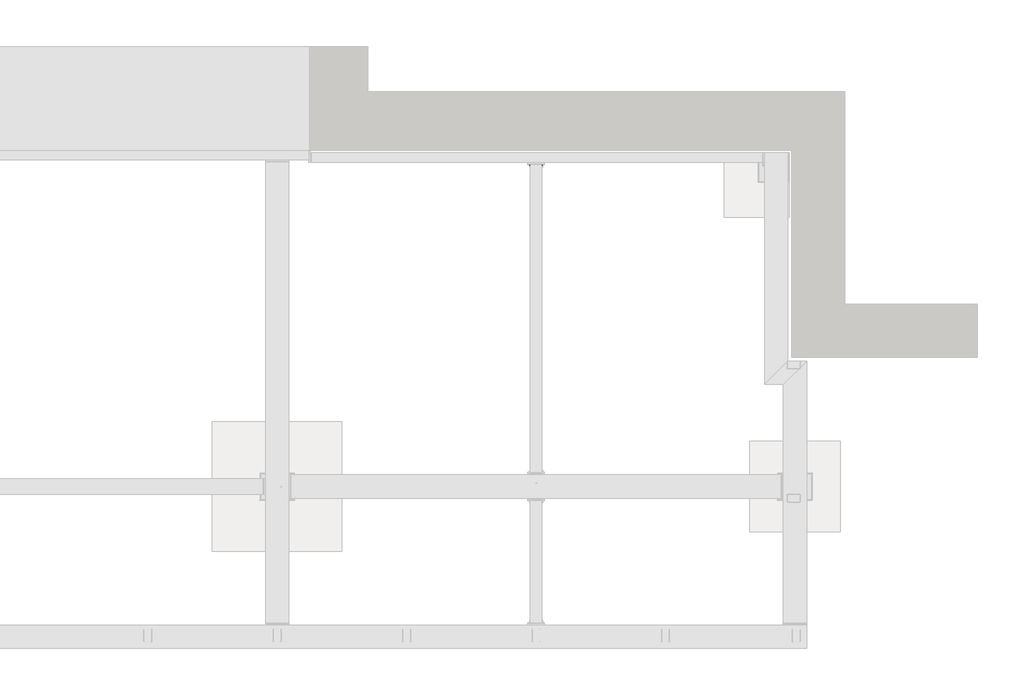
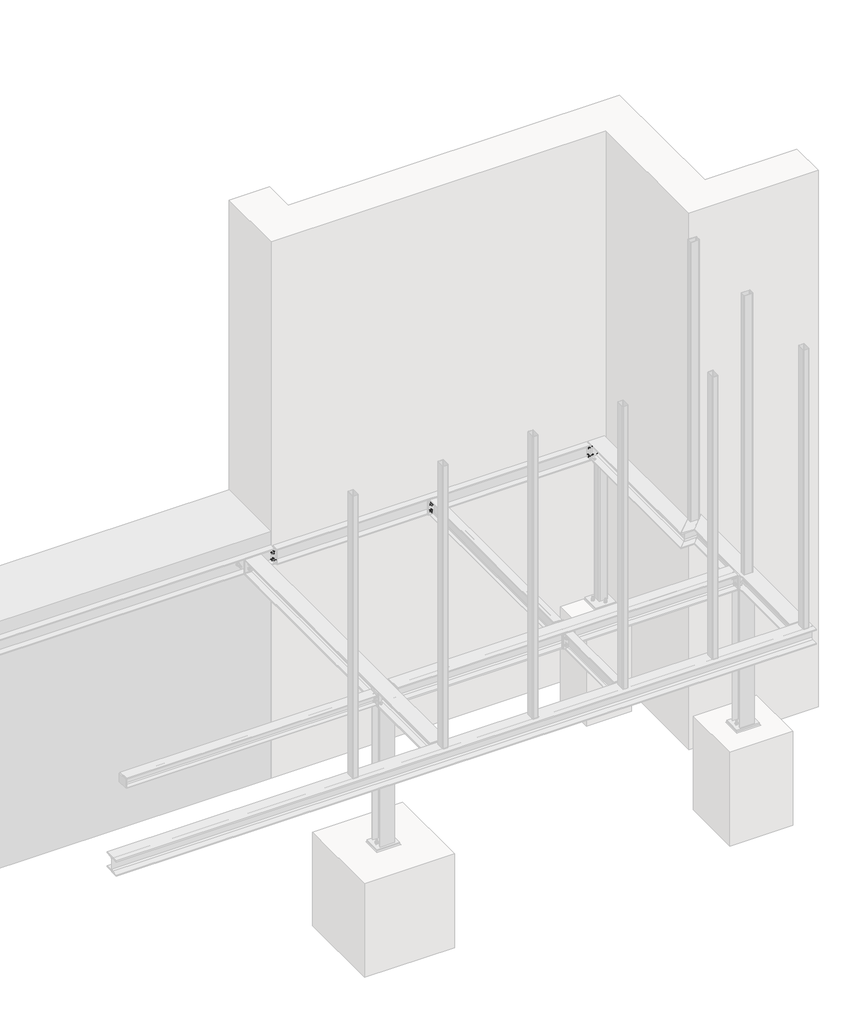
# One storey, part 29 of 31: 4 assemblies.
"""IFC4 building model written with IfcOpenShell, lengths in millimetres."""

import ifcopenshell
import ifcopenshell.guid

model = None  # the IFC model being written
_history = None  # IfcOwnerHistory: only IFC2X3 demands one
_inside = {}  # id of a spatial element -> (the spatial element, [elements in it])
_under = {}  # id of a project, library or spatial element -> (it, [spatial elements below it])
_declared = {}  # id of a project -> (the project, [libraries it declares])
_typed = {}  # id of a type object -> (the type object, [elements of that type])
_made_of = {}  # id of a material, layer set ... -> (it, [elements and type objects made of it])


def new_model(schema):
    """Start an empty IFC model of exactly this schema.

    Asked for "IFC4X3", IfcOpenShell would pick the latest addendum, in which some entities
    have other attributes; the version numbers below select the first issue.
    IFC2X3 requires an IfcOwnerHistory on every rooted entity: one is made here for all.
    """
    global model, _history
    if schema == "IFC4X3":
        model = ifcopenshell.file(schema_version=(4, 3, 0, 0))
    else:
        model = ifcopenshell.file(schema=schema)
    _inside.clear()
    _under.clear()
    _declared.clear()
    _typed.clear()
    _made_of.clear()
    _history = None
    if model.schema == "IFC2X3":
        org = make("IfcOrganization", Name="unknown")
        user = make(
            "IfcPersonAndOrganization",
            ThePerson=make("IfcPerson", FamilyName="unknown"),
            TheOrganization=org,
        )
        app = make(
            "IfcApplication",
            ApplicationDeveloper=org,
            Version="unknown",
            ApplicationFullName="unknown",
            ApplicationIdentifier="unknown",
        )
        _history = make(
            "IfcOwnerHistory",
            OwningUser=user,
            OwningApplication=app,
            ChangeAction="ADDED",
            CreationDate=0,
        )
    return model


def make(cls, **values):
    """One entity of the class cls with the attributes given. An attribute that is None is left unset."""
    return model.create_entity(
        cls, **{name: value for name, value in values.items() if value is not None}
    )


def rooted(cls, **values):
    """An entity with a GlobalId (a new one), such as an element, a storey or a relation."""
    return make(cls, GlobalId=ifcopenshell.guid.new(), OwnerHistory=_history, **values)


def si_unit(unit_type, name, prefix=None):
    """IfcSIUnit, for example si_unit("LENGTHUNIT", "METRE", prefix="MILLI")."""
    return make("IfcSIUnit", UnitType=unit_type, Prefix=prefix, Name=name)


def assignment(units):
    """IfcUnitAssignment: the units of a project."""
    return None if units is None else make("IfcUnitAssignment", Units=units)


def point(xyz):
    """IfcCartesianPoint."""
    return None if xyz is None else make("IfcCartesianPoint", Coordinates=xyz)


def direction(xyz):
    """IfcDirection."""
    return None if xyz is None else make("IfcDirection", DirectionRatios=xyz)


def frame(location, z_axis=None, x_axis=None):
    """IfcAxis2Placement3D, a coordinate frame: its origin and axes. An axis left out is left unset."""
    return make(
        "IfcAxis2Placement3D",
        Location=point(location),
        Axis=direction(z_axis),
        RefDirection=direction(x_axis),
    )


def frame_2d(location, x_axis=None):
    """IfcAxis2Placement2D, a coordinate frame in the plane: its origin and x axis."""
    return make(
        "IfcAxis2Placement2D", Location=point(location), RefDirection=direction(x_axis)
    )


def origin():
    """The frame at (0, 0, 0) with its axes left unset."""
    return frame((0.0, 0.0, 0.0))


def place(relative_to, where):
    """IfcLocalPlacement: puts the frame where relative to a parent placement (None: the world)."""
    return make(
        "IfcLocalPlacement", PlacementRelTo=relative_to, RelativePlacement=where
    )


def context(
    kind, dimensions, precision=None, world=None, true_north=None, identifier=None
):
    """IfcGeometricRepresentationContext, for example the 3D "Model" context."""
    return make(
        "IfcGeometricRepresentationContext",
        ContextIdentifier=identifier,
        ContextType=kind,
        CoordinateSpaceDimension=dimensions,
        Precision=precision,
        WorldCoordinateSystem=world,
        TrueNorth=true_north,
    )


def project(units=None, contexts=None):
    """IfcProject with its units and contexts."""
    return rooted(
        "IfcProject",
        Name="project",
        RepresentationContexts=contexts,
        UnitsInContext=assignment(units),
    )


def spatial(cls, under=None, at=None, **own):
    """A site, building, storey or space (cls), placed at a placement, below another one or the project."""
    s = rooted(cls, ObjectPlacement=at, **own)
    if under is not None:
        _under.setdefault(under.id(), (under, []))[1].append(s)
    return s


def polyline(points):
    """IfcPolyline through the points."""
    return make("IfcPolyline", Points=[point(p) for p in points])


def circle_curve(where, radius):
    """IfcCircle in the frame where."""
    return make("IfcCircle", Position=where, Radius=radius)


def ellipse_curve(where, semi_axis1, semi_axis2):
    """IfcEllipse in the frame where."""
    return make(
        "IfcEllipse", Position=where, SemiAxis1=semi_axis1, SemiAxis2=semi_axis2
    )


def trimmed(basis, trim1, trim2, sense, master):
    """IfcTrimmedCurve: the piece of a basis curve between two trims."""
    return make(
        "IfcTrimmedCurve",
        BasisCurve=basis,
        Trim1=trim1,
        Trim2=trim2,
        SenseAgreement=sense,
        MasterRepresentation=master,
    )


def segment(curve, same_sense, transition):
    """IfcCompositeCurveSegment."""
    return make(
        "IfcCompositeCurveSegment",
        Transition=transition,
        SameSense=same_sense,
        ParentCurve=curve,
    )


def composite_curve(segments, self_intersect=None):
    """IfcCompositeCurve: segments joined end to end."""
    return make("IfcCompositeCurve", Segments=segments, SelfIntersect=self_intersect)


def outline(outer, holes=None, kind="AREA"):
    """IfcArbitraryClosedProfileDef: a profile drawn as a closed curve; with holes, ...WithVoids."""
    if holes is None:
        return make("IfcArbitraryClosedProfileDef", ProfileType=kind, OuterCurve=outer)
    return make(
        "IfcArbitraryProfileDefWithVoids",
        ProfileType=kind,
        OuterCurve=outer,
        InnerCurves=holes,
    )


def extrude(swept, where, along, depth):
    """IfcExtrudedAreaSolid: the profile swept, set in the frame where, extruded along a direction by depth."""
    return make(
        "IfcExtrudedAreaSolid",
        SweptArea=swept,
        Position=where,
        ExtrudedDirection=direction(along),
        Depth=depth,
    )


def shape(context_of_items, identifier, shape_type, items):
    """IfcShapeRepresentation: the items that make up one representation, for example the "Body"."""
    return make(
        "IfcShapeRepresentation",
        ContextOfItems=context_of_items,
        RepresentationIdentifier=identifier,
        RepresentationType=shape_type,
        Items=items,
    )


def made_of(thing, what):
    """Note that an element or type object is made of a material, layer set ...; save() writes the relation."""
    if what is not None:
        _made_of.setdefault(what.id(), (what, []))[1].append(thing)
    return thing


def element(
    cls,
    number,
    at=None,
    inside=None,
    cuts=None,
    type_object=None,
    material=None,
    context=None,
    identifier="Body",
    shape_type=None,
    held_by="IfcProductDefinitionShape",
    body=None,
    shapes=None,
    **own,
):
    """One element of the class cls, such as IfcWall. Its Tag is "e" and its number.

    at: its placement. inside: the storey or other place that contains it. cuts: it is an
    opening in that element (IfcRelVoidsElement). A single representation is given by context,
    identifier, shape_type and body (its items); several are given by shapes. held_by: the class
    of the entity that holds the representations. save() writes the other relations.
    """
    e = rooted(cls, Tag="e%d" % number, ObjectPlacement=at, **own)
    if body is not None:
        shapes = [shape(context, identifier, shape_type, body)]
    if shapes is not None:
        e.Representation = make(held_by, Representations=shapes)
    if inside is not None:
        _inside.setdefault(inside.id(), (inside, []))[1].append(e)
    if cuts is not None:
        rooted(
            "IfcRelVoidsElement", RelatingBuildingElement=cuts, RelatedOpeningElement=e
        )
    if type_object is not None:
        _typed.setdefault(type_object.id(), (type_object, []))[1].append(e)
    return made_of(e, material)


def aggregate(whole, parts):
    """IfcRelAggregates: a whole, such as a stair, and the parts it consists of."""
    return rooted("IfcRelAggregates", RelatingObject=whole, RelatedObjects=parts)


def save(model, path):
    """Write the relations noted so far, then the file.

    IfcRelAggregates (storeys below a building ...), IfcRelContainedInSpatialStructure (elements
    in a storey), IfcRelDefinesByType, IfcRelAssociatesMaterial and IfcRelDeclares: one each for
    every whole, place, type object, material and project.
    """
    for whole, parts in _under.values():
        aggregate(whole, parts)
    for where, things in _inside.values():
        rooted(
            "IfcRelContainedInSpatialStructure",
            RelatedElements=things,
            RelatingStructure=where,
        )
    for kind, things in _typed.values():
        rooted("IfcRelDefinesByType", RelatedObjects=things, RelatingType=kind)
    for what, things in _made_of.values():
        rooted("IfcRelAssociatesMaterial", RelatedObjects=things, RelatingMaterial=what)
    for by, libraries in _declared.values():
        rooted("IfcRelDeclares", RelatingContext=by, RelatedDefinitions=libraries)
    model.write(path)


def plane_surface(at):
    """IfcPlane: the flat surface through the origin of the frame at, square to its z axis."""
    return make("IfcPlane", Position=at)


def revolved_surface(curve, axis_point, axis_direction):
    """IfcSurfaceOfRevolution: the curve turned about the line through axis_point along axis_direction."""
    return make(
        "IfcSurfaceOfRevolution",
        SweptCurve=make("IfcArbitraryOpenProfileDef", ProfileType="CURVE", Curve=curve),
        AxisPosition=make("IfcAxis1Placement", Location=point(axis_point), Axis=direction(axis_direction)),
    )


def advanced_brep(points, edges, surfaces, faces):
    """IfcAdvancedBrep: a solid bounded by faces that lie on surfaces and meet in shared edges.

    An edge is (start, end): straight between two places in points (the first is 0);
    or (start, end, curve); or (start, end, curve, False) where it runs against its curve.
    A face is (place in surfaces, loops), or (place, loops, False) where it looks against
    its surface's normal. A loop lists edges by number (the first is 1), with a minus sign
    where the edge is run from its end to its start. The first loop is the outer one.
    """
    corners = [point(p) for p in points]
    vertices = [make("IfcVertexPoint", VertexGeometry=c) for c in corners]
    made = []
    for start, end, *more in edges:
        made.append(
            make(
                "IfcEdgeCurve",
                EdgeStart=vertices[start],
                EdgeEnd=vertices[end],
                EdgeGeometry=more[0] if more else make("IfcPolyline", Points=[corners[start], corners[end]]),
                SameSense=more[1] if len(more) > 1 else True,
            )
        )
    hull = []
    for where, loops, *sense in faces:
        bounds = []
        for j, loop in enumerate(loops):
            ring = [make("IfcOrientedEdge", EdgeElement=made[abs(k) - 1], Orientation=k > 0) for k in loop]
            bounds.append(
                make(
                    "IfcFaceOuterBound" if j == 0 else "IfcFaceBound",
                    Bound=make("IfcEdgeLoop", EdgeList=ring),
                    Orientation=True,
                )
            )
        hull.append(make("IfcAdvancedFace", Bounds=bounds, FaceSurface=surfaces[where], SameSense=sense[0] if sense else True))
    return make("IfcAdvancedBrep", Outer=make("IfcClosedShell", CfsFaces=hull))


model = new_model("IFC4")

# Units and contexts
model_context = context("Model", 3, world=origin())
ifc_project = project(units=[si_unit("LENGTHUNIT", "METRE", prefix="MILLI")], contexts=[model_context])

# Site, building, storey
site = spatial("IfcSite", under=ifc_project)
building = spatial("IfcBuilding", under=site)
storey = spatial("IfcBuildingStorey", under=building, Name="Základy", Elevation=-1200.0)

# Assemblies
placement = place(None, origin())
element("IfcElementAssembly", 1, at=placement, inside=storey, context=model_context, shape_type="SolidModel", body=[
    advanced_brep(
    [(15995.0, 3840.0, -340.0), (15815.0, 3840.0, -340.0), (15815.0, 3840.0, -326.0), (15885.75, 3840.0, -326.0), (15900.75, 3840.0, -311.0), (15900.75, 3840.0, -189.0), (15885.75, 3840.0, -174.0), (15815.0, 3840.0, -174.0), (15815.0, 3840.0, -160.0), (15995.0, 3840.0, -160.0), (15995.0, 3840.0, -174.0), (15924.25, 3840.0, -174.0), (15909.25, 3840.0, -189.0), (15909.25, 3840.0, -311.0), (15924.25, 3840.0, -326.0), (15995.0, 3840.0, -326.0), (15995.0, 2230.0, -340.0), (15815.0, 2050.0, -340.0), (15815.0, 2050.0, -326.0), (15885.75, 2120.75, -326.0), (15900.75, 2135.75, -311.0), (15900.75, 2135.75, -189.0), (15885.75, 2120.75, -174.0), (15815.0, 2050.0, -174.0), (15815.0, 2050.0, -160.0), (15995.0, 2230.0, -160.0), (15995.0, 2230.0, -174.0), (15924.25, 2159.25, -174.0), (15909.25, 2144.25, -189.0), (15909.25, 2144.25, -311.0), (15924.25, 2159.25, -326.0), (15995.0, 2230.0, -326.0)],
    [
        (0, 1),
        (1, 2),
        (2, 3),
        (3, 4, circle_curve(frame((15885.75, 3840.0, -311.0), z_axis=(0.0, -1.0, 0.0), x_axis=(-1.0, 0.0, 0.0)), 15.0)),
        (4, 5),
        (5, 6, circle_curve(frame((15885.75, 3840.0, -189.0), z_axis=(0.0, -1.0, 0.0), x_axis=(-1.0, 0.0, 0.0)), 15.0)),
        (6, 7),
        (7, 8),
        (8, 9),
        (9, 10),
        (10, 11),
        (11, 12, circle_curve(frame((15924.25, 3840.0, -189.0), z_axis=(0.0, -1.0, 0.0), x_axis=(-1.0, 0.0, 0.0)), 15.0)),
        (12, 13),
        (13, 14, circle_curve(frame((15924.25, 3840.0, -311.0), z_axis=(0.0, -1.0, 0.0), x_axis=(-1.0, 0.0, 0.0)), 15.0)),
        (14, 15),
        (15, 0),
        (0, 16),
        (16, 17),
        (17, 1),
        (17, 18),
        (18, 2),
        (18, 19),
        (19, 3),
        (19, 20, ellipse_curve(frame((15885.75, 2120.75, -311.0), z_axis=(0.7071067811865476, -0.7071067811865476, 0.0), x_axis=(-0.7071067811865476, -0.7071067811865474, 0.0)), 21.2132034, 15.0)),
        (20, 4),
        (20, 21),
        (21, 5),
        (21, 22, ellipse_curve(frame((15885.75, 2120.75, -189.0), z_axis=(0.7071067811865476, -0.7071067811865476, 0.0), x_axis=(-0.7071067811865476, -0.7071067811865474, 0.0)), 21.2132034, 15.0)),
        (22, 6),
        (22, 23),
        (23, 7),
        (23, 24),
        (24, 8),
        (24, 25),
        (25, 9),
        (25, 26),
        (26, 10),
        (26, 27),
        (27, 11),
        (27, 28, ellipse_curve(frame((15924.25, 2159.25, -189.0), z_axis=(0.7071067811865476, -0.7071067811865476, 0.0), x_axis=(-0.7071067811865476, -0.7071067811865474, 0.0)), 21.2132034, 15.0)),
        (28, 12),
        (28, 29),
        (29, 13),
        (29, 30, ellipse_curve(frame((15924.25, 2159.25, -311.0), z_axis=(0.7071067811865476, -0.7071067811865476, 0.0), x_axis=(-0.7071067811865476, -0.7071067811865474, 0.0)), 21.2132034, 15.0)),
        (30, 14),
        (30, 31),
        (31, 15),
        (31, 16),
    ],
    [
        plane_surface(frame((15905.0, 3840.0, -250.0), z_axis=(0.0, 1.0, 0.0), x_axis=(0.0, 0.0, 1.0))),
        plane_surface(frame((15995.0, 3840.0, -340.0), z_axis=(0.0, 0.0, -1.0), x_axis=(0.0, -1.0, 0.0))),
        plane_surface(frame((15815.0, 3840.0, -340.0), z_axis=(-1.0, 0.0, 0.0), x_axis=(0.0, -1.0, 0.0))),
        plane_surface(frame((15815.0, 3840.0, -326.0), z_axis=(0.0, 0.0, 1.0), x_axis=(0.0, -1.0, 0.0))),
        revolved_surface(polyline([(15870.75, 2105.7500000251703, -311.0), (15870.75, 3840.0, -311.0)]), (15885.75, 2040.0, -311.0), (0.0, -1.0, 0.0)),
        plane_surface(frame((15900.75, 3840.0, -311.0), z_axis=(-1.0, 0.0, 0.0), x_axis=(0.0, -1.0, 0.0))),
        revolved_surface(polyline([(15870.75, 2105.7500000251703, -189.0), (15870.75, 3840.0, -189.0)]), (15885.75, 2040.0, -189.0), (0.0, -1.0, 0.0)),
        plane_surface(frame((15885.75, 3840.0, -174.0), z_axis=(0.0, 0.0, -1.0), x_axis=(0.0, -1.0, 0.0))),
        plane_surface(frame((15815.0, 3840.0, -174.0), z_axis=(-1.0, 0.0, 0.0), x_axis=(0.0, -1.0, 0.0))),
        plane_surface(frame((15815.0, 3840.0, -160.0), z_axis=(0.0, 0.0, 1.0), x_axis=(0.0, -1.0, 0.0))),
        plane_surface(frame((15995.0, 3840.0, -160.0), z_axis=(1.0, 0.0, 0.0), x_axis=(0.0, -1.0, 0.0))),
        plane_surface(frame((15995.0, 3840.0, -174.0), z_axis=(0.0, 0.0, -1.0), x_axis=(0.0, -1.0, 0.0))),
        revolved_surface(polyline([(15909.25, 2144.25, -189.0), (15909.25, 3840.0, -189.0)]), (15924.25, 2040.0, -189.0), (0.0, -1.0, 0.0)),
        plane_surface(frame((15909.25, 3840.0, -189.0), z_axis=(1.0, 0.0, 0.0), x_axis=(0.0, -1.0, 0.0))),
        revolved_surface(polyline([(15909.25, 2144.25, -311.0), (15909.25, 3840.0, -311.0)]), (15924.25, 2040.0, -311.0), (0.0, -1.0, 0.0)),
        plane_surface(frame((15924.25, 3840.0, -326.0), z_axis=(0.0, 0.0, 1.0), x_axis=(0.0, -1.0, 0.0))),
        plane_surface(frame((15995.0, 3840.0, -326.0), z_axis=(1.0, 0.0, 0.0), x_axis=(0.0, -1.0, 0.0))),
        plane_surface(frame((16005.0, 2240.0, -160.0), z_axis=(0.7071067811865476, -0.7071067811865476, 0.0), x_axis=(0.7071067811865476, 0.7071067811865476, 0.0))),
    ],
    [
        (0, [[1, 2, 3, 4, 5, 6, 7, 8, 9, 10, 11, 12, 13, 14, 15, 16]]),
        (1, [[-1, 17, 18, 19]]),
        (2, [[-2, -19, 20, 21]]),
        (3, [[-3, -21, 22, 23]]),
        (4, [[-4, -23, 24, 25]]),
        (5, [[-5, -25, 26, 27]]),
        (6, [[-6, -27, 28, 29]]),
        (7, [[-7, -29, 30, 31]]),
        (8, [[-8, -31, 32, 33]]),
        (9, [[-9, -33, 34, 35]]),
        (10, [[-10, -35, 36, 37]]),
        (11, [[-11, -37, 38, 39]]),
        (12, [[-12, -39, 40, 41]]),
        (13, [[-13, -41, 42, 43]]),
        (14, [[-14, -43, 44, 45]]),
        (15, [[-15, -45, 46, 47]]),
        (16, [[-16, -47, 48, -17]]),
        (17, [[-18, -48, -46, -44, -42, -40, -38, -36, -34, -32, -30, -28, -26, -24, -22, -20]]),
    ],
),
    extrude(outline(polyline([(15805.0, 3765.0), (15805.0, 3835.0), (15815.0, 3835.0), (15815.0, 3765.0), (15805.0, 3765.0)])), frame((0.0, 0.0, -330.0), z_axis=(0.0, 0.0, 1.0), x_axis=(1.0, 0.0, 0.0)), (0.0, 0.0, 1.0), 160.0),
    extrude(outline(composite_curve([segment(polyline([(-174.0, 15815.0), (-326.0, 15815.0), (-326.0, 15875.5)]), True, "CONTINUOUS"), segment(trimmed(circle_curve(frame_2d((-326.0, 15900.5)), 25.0), [point((-326.0, 15875.5))], [point((-301.0, 15900.5))], True, "CARTESIAN"), True, "CONTINUOUS"), segment(polyline([(-301.0, 15900.5), (-199.0, 15900.5)]), True, "CONTINUOUS"), segment(trimmed(circle_curve(frame_2d((-174.0, 15900.5)), 25.0), [point((-199.0, 15900.5))], [point((-174.0, 15875.5))], True, "CARTESIAN"), True, "CONTINUOUS"), segment(polyline([(-174.0, 15875.5), (-174.0, 15815.0)]), True, "CONTINUOUS")], self_intersect=False)), frame((0.0, 3795.75, 0.0), z_axis=(0.0, 1.0, 0.0), x_axis=(0.0, 0.0, 1.0)), (0.0, 0.0, 1.0), 8.0),
    extrude(outline(composite_curve([segment(trimmed(circle_curve(frame_2d((3800.0, -200.0)), 9.0), [point((3800.0, -209.0))], [point((3800.0, -191.0))], False, "CARTESIAN"), True, "CONTINUOUS"), segment(trimmed(circle_curve(frame_2d((3800.0, -200.0)), 9.0), [point((3800.0, -191.0))], [point((3800.0, -209.0))], False, "CARTESIAN"), True, "CONTINUOUS")], self_intersect=False)), frame((15804.9, 0.0, 0.0), z_axis=(1.0, 0.0, 0.0), x_axis=(0.0, 1.0, 0.0)), (0.0, 0.0, 1.0), 10.1),
    extrude(outline(polyline([(3800.0, -213.8564065), (3788.0, -206.9282032), (3788.0, -193.0717968), (3800.0, -186.1435935), (3812.0, -193.0717968), (3812.0, -206.9282032), (3800.0, -213.8564065)])), frame((15784.0, 0.0, 0.0), z_axis=(1.0, 0.0, 0.0), x_axis=(0.0, 1.0, 0.0)), (0.0, 0.0, 1.0), 10.0),
    extrude(outline(composite_curve([segment(trimmed(circle_curve(frame_2d((3800.0, -200.0)), 8.0), [point((3800.0, -208.0))], [point((3800.0, -192.0))], False, "CARTESIAN"), True, "CONTINUOUS"), segment(trimmed(circle_curve(frame_2d((3800.0, -200.0)), 8.0), [point((3800.0, -192.0))], [point((3800.0, -208.0))], False, "CARTESIAN"), True, "CONTINUOUS")], self_intersect=False)), frame((15794.0, 0.0, 0.0), z_axis=(1.0, 0.0, 0.0), x_axis=(0.0, 1.0, 0.0)), (0.0, 0.0, 1.0), 50.0),
    extrude(outline(composite_curve([segment(trimmed(circle_curve(frame_2d((3800.0, -200.0)), 15.0), [point((3800.0, -215.0))], [point((3800.0, -185.0))], False, "CARTESIAN"), True, "CONTINUOUS"), segment(trimmed(circle_curve(frame_2d((3800.0, -200.0)), 15.0), [point((3800.0, -185.0))], [point((3800.0, -215.0))], False, "CARTESIAN"), True, "CONTINUOUS")], self_intersect=False)), frame((15794.0, 0.0, 0.0), z_axis=(1.0, 0.0, 0.0), x_axis=(0.0, 1.0, 0.0)), (0.0, 0.0, 1.0), 3.0),
    extrude(outline(composite_curve([segment(trimmed(circle_curve(frame_2d((3800.0, -200.0)), 15.0), [point((3800.0, -215.0))], [point((3800.0, -185.0))], False, "CARTESIAN"), True, "CONTINUOUS"), segment(trimmed(circle_curve(frame_2d((3800.0, -200.0)), 15.0), [point((3800.0, -185.0))], [point((3800.0, -215.0))], False, "CARTESIAN"), True, "CONTINUOUS")], self_intersect=False)), frame((15815.0, 0.0, 0.0), z_axis=(1.0, 0.0, 0.0), x_axis=(0.0, 1.0, 0.0)), (0.0, 0.0, 1.0), 3.0),
    extrude(outline(polyline([(3800.0, -215.4441197), (3786.625, -207.7220599), (3786.625, -192.2779401), (3800.0, -184.5558803), (3813.375, -192.2779401), (3813.375, -207.7220599), (3800.0, -215.4441197)])), frame((15818.0, 0.0, 0.0), z_axis=(1.0, 0.0, 0.0), x_axis=(0.0, 1.0, 0.0)), (0.0, 0.0, 1.0), 13.0),
    extrude(outline(composite_curve([segment(trimmed(circle_curve(frame_2d((3800.0, -200.0)), 9.0), [point((3800.0, -209.0))], [point((3800.0, -191.0))], False, "CARTESIAN"), True, "CONTINUOUS"), segment(trimmed(circle_curve(frame_2d((3800.0, -200.0)), 9.0), [point((3800.0, -191.0))], [point((3800.0, -209.0))], False, "CARTESIAN"), True, "CONTINUOUS")], self_intersect=False)), frame((15797.1, 0.0, 0.0), z_axis=(1.0, 0.0, 0.0), x_axis=(0.0, 1.0, 0.0)), (0.0, 0.0, 1.0), 8.0),
    extrude(outline(composite_curve([segment(trimmed(circle_curve(frame_2d((3800.0, -300.0)), 9.0), [point((3800.0, -309.0))], [point((3800.0, -291.0))], False, "CARTESIAN"), True, "CONTINUOUS"), segment(trimmed(circle_curve(frame_2d((3800.0, -300.0)), 9.0), [point((3800.0, -291.0))], [point((3800.0, -309.0))], False, "CARTESIAN"), True, "CONTINUOUS")], self_intersect=False)), frame((15804.9, 0.0, 0.0), z_axis=(1.0, 0.0, 0.0), x_axis=(0.0, 1.0, 0.0)), (0.0, 0.0, 1.0), 10.1),
    extrude(outline(polyline([(3800.0, -313.8564065), (3788.0, -306.9282032), (3788.0, -293.0717968), (3800.0, -286.1435935), (3812.0, -293.0717968), (3812.0, -306.9282032), (3800.0, -313.8564065)])), frame((15784.0, 0.0, 0.0), z_axis=(1.0, 0.0, 0.0), x_axis=(0.0, 1.0, 0.0)), (0.0, 0.0, 1.0), 10.0),
    extrude(outline(composite_curve([segment(trimmed(circle_curve(frame_2d((3800.0, -300.0)), 8.0), [point((3800.0, -308.0))], [point((3800.0, -292.0))], False, "CARTESIAN"), True, "CONTINUOUS"), segment(trimmed(circle_curve(frame_2d((3800.0, -300.0)), 8.0), [point((3800.0, -292.0))], [point((3800.0, -308.0))], False, "CARTESIAN"), True, "CONTINUOUS")], self_intersect=False)), frame((15794.0, 0.0, 0.0), z_axis=(1.0, 0.0, 0.0), x_axis=(0.0, 1.0, 0.0)), (0.0, 0.0, 1.0), 50.0),
    extrude(outline(composite_curve([segment(trimmed(circle_curve(frame_2d((3800.0, -300.0)), 15.0), [point((3800.0, -315.0))], [point((3800.0, -285.0))], False, "CARTESIAN"), True, "CONTINUOUS"), segment(trimmed(circle_curve(frame_2d((3800.0, -300.0)), 15.0), [point((3800.0, -285.0))], [point((3800.0, -315.0))], False, "CARTESIAN"), True, "CONTINUOUS")], self_intersect=False)), frame((15794.0, 0.0, 0.0), z_axis=(1.0, 0.0, 0.0), x_axis=(0.0, 1.0, 0.0)), (0.0, 0.0, 1.0), 3.0),
    extrude(outline(composite_curve([segment(trimmed(circle_curve(frame_2d((3800.0, -300.0)), 15.0), [point((3800.0, -315.0))], [point((3800.0, -285.0))], False, "CARTESIAN"), True, "CONTINUOUS"), segment(trimmed(circle_curve(frame_2d((3800.0, -300.0)), 15.0), [point((3800.0, -285.0))], [point((3800.0, -315.0))], False, "CARTESIAN"), True, "CONTINUOUS")], self_intersect=False)), frame((15815.0, 0.0, 0.0), z_axis=(1.0, 0.0, 0.0), x_axis=(0.0, 1.0, 0.0)), (0.0, 0.0, 1.0), 3.0),
    extrude(outline(polyline([(3800.0, -315.4441197), (3786.625, -307.7220599), (3786.625, -292.2779401), (3800.0, -284.5558803), (3813.375, -292.2779401), (3813.375, -307.7220599), (3800.0, -315.4441197)])), frame((15818.0, 0.0, 0.0), z_axis=(1.0, 0.0, 0.0), x_axis=(0.0, 1.0, 0.0)), (0.0, 0.0, 1.0), 13.0),
    extrude(outline(composite_curve([segment(trimmed(circle_curve(frame_2d((3800.0, -300.0)), 9.0), [point((3800.0, -309.0))], [point((3800.0, -291.0))], False, "CARTESIAN"), True, "CONTINUOUS"), segment(trimmed(circle_curve(frame_2d((3800.0, -300.0)), 9.0), [point((3800.0, -291.0))], [point((3800.0, -309.0))], False, "CARTESIAN"), True, "CONTINUOUS")], self_intersect=False)), frame((15797.1, 0.0, 0.0), z_axis=(1.0, 0.0, 0.0), x_axis=(0.0, 1.0, 0.0)), (0.0, 0.0, 1.0), 8.0),
])
element("IfcElementAssembly", 2, at=placement, inside=storey, context=model_context, shape_type="SweptSolid", body=[
    extrude(outline(polyline([(16005.0, 3840.0), (16005.0, 3340.0), (15505.0, 3340.0), (15505.0, 3840.0), (16005.0, 3840.0)])), frame((0.0, 0.0, -3100.0), z_axis=(0.0, 0.0, 1.0), x_axis=(1.0, 0.0, 0.0)), (0.0, 0.0, 1.0), 1100.0),
])
element("IfcElementAssembly", 3, at=placement, inside=storey, context=model_context, shape_type="SweptSolid", body=[
    extrude(outline(polyline([(3840.0, -160.0), (3840.0, -340.0), (3765.0, -340.0), (3765.0, -329.5), (3834.5, -329.5), (3834.5, -170.5), (3765.0, -170.5), (3765.0, -160.0), (3840.0, -160.0)])), frame((12315.0, 0.0, 0.0), z_axis=(1.0, 0.0, 0.0), x_axis=(0.0, 1.0, 0.0)), (0.0, 0.0, 1.0), 3482.0),
    extrude(outline(polyline([(15797.0, 3765.0), (15797.0, 3835.0), (15805.0, 3835.0), (15805.0, 3765.0), (15797.0, 3765.0)])), frame((0.0, 0.0, -330.0), z_axis=(0.0, 0.0, 1.0), x_axis=(1.0, 0.0, 0.0)), (0.0, 0.0, 1.0), 160.0),
    extrude(outline(polyline([(12315.0, 3835.0), (12315.0, 3765.0), (12305.0, 3765.0), (12305.0, 3835.0), (12315.0, 3835.0)])), frame((0.0, 0.0, -329.5), z_axis=(0.0, 0.0, 1.0), x_axis=(1.0, 0.0, 0.0)), (0.0, 0.0, 1.0), 159.0),
    extrude(outline(composite_curve([segment(trimmed(circle_curve(frame_2d((3800.0, -290.0)), 9.0), [point((3809.0, -290.0))], [point((3791.0, -290.0))], False, "CARTESIAN"), True, "CONTINUOUS"), segment(trimmed(circle_curve(frame_2d((3800.0, -290.0)), 9.0), [point((3791.0, -290.0))], [point((3809.0, -290.0))], False, "CARTESIAN"), True, "CONTINUOUS")], self_intersect=False)), frame((12304.9, 0.0, 0.0), z_axis=(1.0, 0.0, 0.0), x_axis=(0.0, 1.0, 0.0)), (0.0, 0.0, 1.0), 10.0),
    extrude(outline(polyline([(3813.8564065, -290.0), (3806.9282032, -302.0), (3793.0717968, -302.0), (3786.1435935, -290.0), (3793.0717968, -278.0), (3806.9282032, -278.0), (3813.8564065, -290.0)])), frame((12318.0, 0.0, 0.0), z_axis=(1.0, 0.0, 0.0), x_axis=(0.0, 1.0, 0.0)), (0.0, 0.0, 1.0), 10.0),
    extrude(outline(composite_curve([segment(trimmed(circle_curve(frame_2d((3800.0, -290.0)), 8.0), [point((3808.0, -290.0))], [point((3792.0, -290.0))], False, "CARTESIAN"), True, "CONTINUOUS"), segment(trimmed(circle_curve(frame_2d((3800.0, -290.0)), 8.0), [point((3792.0, -290.0))], [point((3808.0, -290.0))], False, "CARTESIAN"), True, "CONTINUOUS")], self_intersect=False)), frame((12268.0, 0.0, 0.0), z_axis=(1.0, 0.0, 0.0), x_axis=(0.0, 1.0, 0.0)), (0.0, 0.0, 1.0), 50.0),
    extrude(outline(composite_curve([segment(trimmed(circle_curve(frame_2d((3800.0, -290.0)), 15.0), [point((3815.0, -290.0))], [point((3785.0, -290.0))], False, "CARTESIAN"), True, "CONTINUOUS"), segment(trimmed(circle_curve(frame_2d((3800.0, -290.0)), 15.0), [point((3785.0, -290.0))], [point((3815.0, -290.0))], False, "CARTESIAN"), True, "CONTINUOUS")], self_intersect=False)), frame((12315.0, 0.0, 0.0), z_axis=(1.0, 0.0, 0.0), x_axis=(0.0, 1.0, 0.0)), (0.0, 0.0, 1.0), 3.0),
    extrude(outline(composite_curve([segment(trimmed(circle_curve(frame_2d((3800.0, -290.0)), 15.0), [point((3815.0, -290.0))], [point((3785.0, -290.0))], False, "CARTESIAN"), True, "CONTINUOUS"), segment(trimmed(circle_curve(frame_2d((3800.0, -290.0)), 15.0), [point((3785.0, -290.0))], [point((3815.0, -290.0))], False, "CARTESIAN"), True, "CONTINUOUS")], self_intersect=False)), frame((12292.0, 0.0, 0.0), z_axis=(1.0, 0.0, 0.0), x_axis=(0.0, 1.0, 0.0)), (0.0, 0.0, 1.0), 3.0),
    extrude(outline(polyline([(3815.4441197, -290.0), (3807.7220599, -303.375), (3792.2779401, -303.375), (3784.5558803, -290.0), (3792.2779401, -276.625), (3807.7220599, -276.625), (3815.4441197, -290.0)])), frame((12279.0, 0.0, 0.0), z_axis=(1.0, 0.0, 0.0), x_axis=(0.0, 1.0, 0.0)), (0.0, 0.0, 1.0), 13.0),
    extrude(outline(composite_curve([segment(trimmed(circle_curve(frame_2d((3800.0, -290.0)), 9.0), [point((3809.0, -290.0))], [point((3791.0, -290.0))], False, "CARTESIAN"), True, "CONTINUOUS"), segment(trimmed(circle_curve(frame_2d((3800.0, -290.0)), 9.0), [point((3791.0, -290.0))], [point((3809.0, -290.0))], False, "CARTESIAN"), True, "CONTINUOUS")], self_intersect=False)), frame((12295.0, 0.0, 0.0), z_axis=(1.0, 0.0, 0.0), x_axis=(0.0, 1.0, 0.0)), (0.0, 0.0, 1.0), 10.1),
    extrude(outline(composite_curve([segment(trimmed(circle_curve(frame_2d((3800.0, -210.0)), 9.0), [point((3809.0, -210.0))], [point((3791.0, -210.0))], False, "CARTESIAN"), True, "CONTINUOUS"), segment(trimmed(circle_curve(frame_2d((3800.0, -210.0)), 9.0), [point((3791.0, -210.0))], [point((3809.0, -210.0))], False, "CARTESIAN"), True, "CONTINUOUS")], self_intersect=False)), frame((12304.9, 0.0, 0.0), z_axis=(1.0, 0.0, 0.0), x_axis=(0.0, 1.0, 0.0)), (0.0, 0.0, 1.0), 10.0),
    extrude(outline(polyline([(3813.8564065, -210.0), (3806.9282032, -222.0), (3793.0717968, -222.0), (3786.1435935, -210.0), (3793.0717968, -198.0), (3806.9282032, -198.0), (3813.8564065, -210.0)])), frame((12318.0, 0.0, 0.0), z_axis=(1.0, 0.0, 0.0), x_axis=(0.0, 1.0, 0.0)), (0.0, 0.0, 1.0), 10.0),
    extrude(outline(composite_curve([segment(trimmed(circle_curve(frame_2d((3800.0, -210.0)), 8.0), [point((3808.0, -210.0))], [point((3792.0, -210.0))], False, "CARTESIAN"), True, "CONTINUOUS"), segment(trimmed(circle_curve(frame_2d((3800.0, -210.0)), 8.0), [point((3792.0, -210.0))], [point((3808.0, -210.0))], False, "CARTESIAN"), True, "CONTINUOUS")], self_intersect=False)), frame((12268.0, 0.0, 0.0), z_axis=(1.0, 0.0, 0.0), x_axis=(0.0, 1.0, 0.0)), (0.0, 0.0, 1.0), 50.0),
    extrude(outline(composite_curve([segment(trimmed(circle_curve(frame_2d((3800.0, -210.0)), 15.0), [point((3815.0, -210.0))], [point((3785.0, -210.0))], False, "CARTESIAN"), True, "CONTINUOUS"), segment(trimmed(circle_curve(frame_2d((3800.0, -210.0)), 15.0), [point((3785.0, -210.0))], [point((3815.0, -210.0))], False, "CARTESIAN"), True, "CONTINUOUS")], self_intersect=False)), frame((12315.0, 0.0, 0.0), z_axis=(1.0, 0.0, 0.0), x_axis=(0.0, 1.0, 0.0)), (0.0, 0.0, 1.0), 3.0),
    extrude(outline(composite_curve([segment(trimmed(circle_curve(frame_2d((3800.0, -210.0)), 15.0), [point((3815.0, -210.0))], [point((3785.0, -210.0))], False, "CARTESIAN"), True, "CONTINUOUS"), segment(trimmed(circle_curve(frame_2d((3800.0, -210.0)), 15.0), [point((3785.0, -210.0))], [point((3815.0, -210.0))], False, "CARTESIAN"), True, "CONTINUOUS")], self_intersect=False)), frame((12292.0, 0.0, 0.0), z_axis=(1.0, 0.0, 0.0), x_axis=(0.0, 1.0, 0.0)), (0.0, 0.0, 1.0), 3.0),
    extrude(outline(polyline([(3815.4441197, -210.0), (3807.7220599, -223.375), (3792.2779401, -223.375), (3784.5558803, -210.0), (3792.2779401, -196.625), (3807.7220599, -196.625), (3815.4441197, -210.0)])), frame((12279.0, 0.0, 0.0), z_axis=(1.0, 0.0, 0.0), x_axis=(0.0, 1.0, 0.0)), (0.0, 0.0, 1.0), 13.0),
    extrude(outline(composite_curve([segment(trimmed(circle_curve(frame_2d((3800.0, -210.0)), 9.0), [point((3809.0, -210.0))], [point((3791.0, -210.0))], False, "CARTESIAN"), True, "CONTINUOUS"), segment(trimmed(circle_curve(frame_2d((3800.0, -210.0)), 9.0), [point((3791.0, -210.0))], [point((3809.0, -210.0))], False, "CARTESIAN"), True, "CONTINUOUS")], self_intersect=False)), frame((12295.0, 0.0, 0.0), z_axis=(1.0, 0.0, 0.0), x_axis=(0.0, 1.0, 0.0)), (0.0, 0.0, 1.0), 10.1),
])
element("IfcElementAssembly", 4, at=placement, inside=storey, context=model_context, shape_type="SweptSolid", body=[
    extrude(outline(polyline([(12750.0, 4310.0), (16435.0, 4310.0), (16435.0, 2670.0), (17460.0, 2670.0), (17460.0, 2260.0), (16025.0, 2260.0), (16025.0, 3860.0), (12300.0, 3860.0), (12300.0, 4660.0), (12750.0, 4660.0), (12750.0, 4310.0)])), frame((0.0, 0.0, -2900.0), z_axis=(0.0, 0.0, 1.0), x_axis=(1.0, 0.0, 0.0)), (0.0, 0.0, 1.0), 6300.0),
    extrude(outline(composite_curve([segment(polyline([(3765.0, -174.0), (3814.5, -174.0)]), True, "CONTINUOUS"), segment(trimmed(circle_curve(frame_2d((3834.5, -174.0)), 20.0), [point((3814.5, -174.0))], [point((3834.5, -194.0))], True, "CARTESIAN"), True, "CONTINUOUS"), segment(polyline([(3834.5, -194.0), (3834.5, -306.0)]), True, "CONTINUOUS"), segment(trimmed(circle_curve(frame_2d((3834.5, -326.0)), 20.0), [point((3834.5, -306.0))], [point((3814.5, -326.0))], True, "CARTESIAN"), True, "CONTINUOUS"), segment(polyline([(3814.5, -326.0), (3765.0, -326.0), (3765.0, -174.0)]), True, "CONTINUOUS")], self_intersect=False)), frame((14046.0, 0.0, 0.0), z_axis=(1.0, 0.0, 0.0), x_axis=(0.0, 1.0, 0.0)), (0.0, 0.0, 1.0), 8.0),
    extrude(outline(polyline([(13985.0, 3765.0), (14115.0, 3765.0), (14115.0, 3755.0), (13985.0, 3755.0), (13985.0, 3765.0)])), frame((0.0, 0.0, -332.0), z_axis=(0.0, 0.0, 1.0), x_axis=(1.0, 0.0, 0.0)), (0.0, 0.0, 1.0), 164.0),
    extrude(outline(composite_curve([segment(trimmed(circle_curve(frame_2d((-290.0, 14015.0)), 9.0), [point((-290.0, 14024.0))], [point((-290.0, 14006.0))], False, "CARTESIAN"), True, "CONTINUOUS"), segment(trimmed(circle_curve(frame_2d((-290.0, 14015.0)), 9.0), [point((-290.0, 14006.0))], [point((-290.0, 14024.0))], False, "CARTESIAN"), True, "CONTINUOUS")], self_intersect=False)), frame((0.0, 3754.9, 0.0), z_axis=(0.0, 1.0, 0.0), x_axis=(0.0, 0.0, 1.0)), (0.0, 0.0, 1.0), 10.0),
    extrude(outline(polyline([(-290.0, 14028.8564065), (-278.0, 14021.9282032), (-278.0, 14008.0717968), (-290.0, 14001.1435935), (-302.0, 14008.0717968), (-302.0, 14021.9282032), (-290.0, 14028.8564065)])), frame((0.0, 3768.0, 0.0), z_axis=(0.0, 1.0, 0.0), x_axis=(0.0, 0.0, 1.0)), (0.0, 0.0, 1.0), 10.0),
    extrude(outline(composite_curve([segment(trimmed(circle_curve(frame_2d((-290.0, 14015.0)), 8.0), [point((-290.0, 14023.0))], [point((-290.0, 14007.0))], False, "CARTESIAN"), True, "CONTINUOUS"), segment(trimmed(circle_curve(frame_2d((-290.0, 14015.0)), 8.0), [point((-290.0, 14007.0))], [point((-290.0, 14023.0))], False, "CARTESIAN"), True, "CONTINUOUS")], self_intersect=False)), frame((0.0, 3718.0, 0.0), z_axis=(0.0, 1.0, 0.0), x_axis=(0.0, 0.0, 1.0)), (0.0, 0.0, 1.0), 50.0),
    extrude(outline(composite_curve([segment(trimmed(circle_curve(frame_2d((-290.0, 14015.0)), 15.0), [point((-290.0, 14030.0))], [point((-290.0, 14000.0))], False, "CARTESIAN"), True, "CONTINUOUS"), segment(trimmed(circle_curve(frame_2d((-290.0, 14015.0)), 15.0), [point((-290.0, 14000.0))], [point((-290.0, 14030.0))], False, "CARTESIAN"), True, "CONTINUOUS")], self_intersect=False)), frame((0.0, 3765.0, 0.0), z_axis=(0.0, 1.0, 0.0), x_axis=(0.0, 0.0, 1.0)), (0.0, 0.0, 1.0), 3.0),
    extrude(outline(composite_curve([segment(trimmed(circle_curve(frame_2d((-290.0, 14015.0)), 15.0), [point((-290.0, 14030.0))], [point((-290.0, 14000.0))], False, "CARTESIAN"), True, "CONTINUOUS"), segment(trimmed(circle_curve(frame_2d((-290.0, 14015.0)), 15.0), [point((-290.0, 14000.0))], [point((-290.0, 14030.0))], False, "CARTESIAN"), True, "CONTINUOUS")], self_intersect=False)), frame((0.0, 3742.0, 0.0), z_axis=(0.0, 1.0, 0.0), x_axis=(0.0, 0.0, 1.0)), (0.0, 0.0, 1.0), 3.0),
    extrude(outline(polyline([(-290.0, 14030.4441197), (-276.625, 14022.7220599), (-276.625, 14007.2779401), (-290.0, 13999.5558803), (-303.375, 14007.2779401), (-303.375, 14022.7220599), (-290.0, 14030.4441197)])), frame((0.0, 3729.0, 0.0), z_axis=(0.0, 1.0, 0.0), x_axis=(0.0, 0.0, 1.0)), (0.0, 0.0, 1.0), 13.0),
    extrude(outline(composite_curve([segment(trimmed(circle_curve(frame_2d((-290.0, 14015.0)), 9.0), [point((-290.0, 14024.0))], [point((-290.0, 14006.0))], False, "CARTESIAN"), True, "CONTINUOUS"), segment(trimmed(circle_curve(frame_2d((-290.0, 14015.0)), 9.0), [point((-290.0, 14006.0))], [point((-290.0, 14024.0))], False, "CARTESIAN"), True, "CONTINUOUS")], self_intersect=False)), frame((0.0, 3745.0, 0.0), z_axis=(0.0, 1.0, 0.0), x_axis=(0.0, 0.0, 1.0)), (0.0, 0.0, 1.0), 10.1),
    extrude(outline(composite_curve([segment(trimmed(circle_curve(frame_2d((-290.0, 14085.0)), 9.0), [point((-290.0, 14094.0))], [point((-290.0, 14076.0))], False, "CARTESIAN"), True, "CONTINUOUS"), segment(trimmed(circle_curve(frame_2d((-290.0, 14085.0)), 9.0), [point((-290.0, 14076.0))], [point((-290.0, 14094.0))], False, "CARTESIAN"), True, "CONTINUOUS")], self_intersect=False)), frame((0.0, 3754.9, 0.0), z_axis=(0.0, 1.0, 0.0), x_axis=(0.0, 0.0, 1.0)), (0.0, 0.0, 1.0), 10.0),
    extrude(outline(polyline([(-290.0, 14098.8564065), (-278.0, 14091.9282032), (-278.0, 14078.0717968), (-290.0, 14071.1435935), (-302.0, 14078.0717968), (-302.0, 14091.9282032), (-290.0, 14098.8564065)])), frame((0.0, 3768.0, 0.0), z_axis=(0.0, 1.0, 0.0), x_axis=(0.0, 0.0, 1.0)), (0.0, 0.0, 1.0), 10.0),
    extrude(outline(composite_curve([segment(trimmed(circle_curve(frame_2d((-290.0, 14085.0)), 8.0), [point((-290.0, 14093.0))], [point((-290.0, 14077.0))], False, "CARTESIAN"), True, "CONTINUOUS"), segment(trimmed(circle_curve(frame_2d((-290.0, 14085.0)), 8.0), [point((-290.0, 14077.0))], [point((-290.0, 14093.0))], False, "CARTESIAN"), True, "CONTINUOUS")], self_intersect=False)), frame((0.0, 3718.0, 0.0), z_axis=(0.0, 1.0, 0.0), x_axis=(0.0, 0.0, 1.0)), (0.0, 0.0, 1.0), 50.0),
    extrude(outline(composite_curve([segment(trimmed(circle_curve(frame_2d((-290.0, 14085.0)), 15.0), [point((-290.0, 14100.0))], [point((-290.0, 14070.0))], False, "CARTESIAN"), True, "CONTINUOUS"), segment(trimmed(circle_curve(frame_2d((-290.0, 14085.0)), 15.0), [point((-290.0, 14070.0))], [point((-290.0, 14100.0))], False, "CARTESIAN"), True, "CONTINUOUS")], self_intersect=False)), frame((0.0, 3765.0, 0.0), z_axis=(0.0, 1.0, 0.0), x_axis=(0.0, 0.0, 1.0)), (0.0, 0.0, 1.0), 3.0),
    extrude(outline(composite_curve([segment(trimmed(circle_curve(frame_2d((-290.0, 14085.0)), 15.0), [point((-290.0, 14100.0))], [point((-290.0, 14070.0))], False, "CARTESIAN"), True, "CONTINUOUS"), segment(trimmed(circle_curve(frame_2d((-290.0, 14085.0)), 15.0), [point((-290.0, 14070.0))], [point((-290.0, 14100.0))], False, "CARTESIAN"), True, "CONTINUOUS")], self_intersect=False)), frame((0.0, 3742.0, 0.0), z_axis=(0.0, 1.0, 0.0), x_axis=(0.0, 0.0, 1.0)), (0.0, 0.0, 1.0), 3.0),
    extrude(outline(polyline([(-290.0, 14100.4441197), (-276.625, 14092.7220599), (-276.625, 14077.2779401), (-290.0, 14069.5558803), (-303.375, 14077.2779401), (-303.375, 14092.7220599), (-290.0, 14100.4441197)])), frame((0.0, 3729.0, 0.0), z_axis=(0.0, 1.0, 0.0), x_axis=(0.0, 0.0, 1.0)), (0.0, 0.0, 1.0), 13.0),
    extrude(outline(composite_curve([segment(trimmed(circle_curve(frame_2d((-290.0, 14085.0)), 9.0), [point((-290.0, 14094.0))], [point((-290.0, 14076.0))], False, "CARTESIAN"), True, "CONTINUOUS"), segment(trimmed(circle_curve(frame_2d((-290.0, 14085.0)), 9.0), [point((-290.0, 14076.0))], [point((-290.0, 14094.0))], False, "CARTESIAN"), True, "CONTINUOUS")], self_intersect=False)), frame((0.0, 3745.0, 0.0), z_axis=(0.0, 1.0, 0.0), x_axis=(0.0, 0.0, 1.0)), (0.0, 0.0, 1.0), 10.1),
    extrude(outline(composite_curve([segment(trimmed(circle_curve(frame_2d((-210.0, 14015.0)), 9.0), [point((-210.0, 14024.0))], [point((-210.0, 14006.0))], False, "CARTESIAN"), True, "CONTINUOUS"), segment(trimmed(circle_curve(frame_2d((-210.0, 14015.0)), 9.0), [point((-210.0, 14006.0))], [point((-210.0, 14024.0))], False, "CARTESIAN"), True, "CONTINUOUS")], self_intersect=False)), frame((0.0, 3754.9, 0.0), z_axis=(0.0, 1.0, 0.0), x_axis=(0.0, 0.0, 1.0)), (0.0, 0.0, 1.0), 10.0),
    extrude(outline(polyline([(-210.0, 14028.8564065), (-198.0, 14021.9282032), (-198.0, 14008.0717968), (-210.0, 14001.1435935), (-222.0, 14008.0717968), (-222.0, 14021.9282032), (-210.0, 14028.8564065)])), frame((0.0, 3768.0, 0.0), z_axis=(0.0, 1.0, 0.0), x_axis=(0.0, 0.0, 1.0)), (0.0, 0.0, 1.0), 10.0),
    extrude(outline(composite_curve([segment(trimmed(circle_curve(frame_2d((-210.0, 14015.0)), 8.0), [point((-210.0, 14023.0))], [point((-210.0, 14007.0))], False, "CARTESIAN"), True, "CONTINUOUS"), segment(trimmed(circle_curve(frame_2d((-210.0, 14015.0)), 8.0), [point((-210.0, 14007.0))], [point((-210.0, 14023.0))], False, "CARTESIAN"), True, "CONTINUOUS")], self_intersect=False)), frame((0.0, 3718.0, 0.0), z_axis=(0.0, 1.0, 0.0), x_axis=(0.0, 0.0, 1.0)), (0.0, 0.0, 1.0), 50.0),
    extrude(outline(composite_curve([segment(trimmed(circle_curve(frame_2d((-210.0, 14015.0)), 15.0), [point((-210.0, 14030.0))], [point((-210.0, 14000.0))], False, "CARTESIAN"), True, "CONTINUOUS"), segment(trimmed(circle_curve(frame_2d((-210.0, 14015.0)), 15.0), [point((-210.0, 14000.0))], [point((-210.0, 14030.0))], False, "CARTESIAN"), True, "CONTINUOUS")], self_intersect=False)), frame((0.0, 3765.0, 0.0), z_axis=(0.0, 1.0, 0.0), x_axis=(0.0, 0.0, 1.0)), (0.0, 0.0, 1.0), 3.0),
    extrude(outline(composite_curve([segment(trimmed(circle_curve(frame_2d((-210.0, 14015.0)), 15.0), [point((-210.0, 14030.0))], [point((-210.0, 14000.0))], False, "CARTESIAN"), True, "CONTINUOUS"), segment(trimmed(circle_curve(frame_2d((-210.0, 14015.0)), 15.0), [point((-210.0, 14000.0))], [point((-210.0, 14030.0))], False, "CARTESIAN"), True, "CONTINUOUS")], self_intersect=False)), frame((0.0, 3742.0, 0.0), z_axis=(0.0, 1.0, 0.0), x_axis=(0.0, 0.0, 1.0)), (0.0, 0.0, 1.0), 3.0),
    extrude(outline(polyline([(-210.0, 14030.4441197), (-196.625, 14022.7220599), (-196.625, 14007.2779401), (-210.0, 13999.5558803), (-223.375, 14007.2779401), (-223.375, 14022.7220599), (-210.0, 14030.4441197)])), frame((0.0, 3729.0, 0.0), z_axis=(0.0, 1.0, 0.0), x_axis=(0.0, 0.0, 1.0)), (0.0, 0.0, 1.0), 13.0),
    extrude(outline(composite_curve([segment(trimmed(circle_curve(frame_2d((-210.0, 14015.0)), 9.0), [point((-210.0, 14024.0))], [point((-210.0, 14006.0))], False, "CARTESIAN"), True, "CONTINUOUS"), segment(trimmed(circle_curve(frame_2d((-210.0, 14015.0)), 9.0), [point((-210.0, 14006.0))], [point((-210.0, 14024.0))], False, "CARTESIAN"), True, "CONTINUOUS")], self_intersect=False)), frame((0.0, 3745.0, 0.0), z_axis=(0.0, 1.0, 0.0), x_axis=(0.0, 0.0, 1.0)), (0.0, 0.0, 1.0), 10.1),
    extrude(outline(composite_curve([segment(trimmed(circle_curve(frame_2d((-210.0, 14085.0)), 9.0), [point((-210.0, 14094.0))], [point((-210.0, 14076.0))], False, "CARTESIAN"), True, "CONTINUOUS"), segment(trimmed(circle_curve(frame_2d((-210.0, 14085.0)), 9.0), [point((-210.0, 14076.0))], [point((-210.0, 14094.0))], False, "CARTESIAN"), True, "CONTINUOUS")], self_intersect=False)), frame((0.0, 3754.9, 0.0), z_axis=(0.0, 1.0, 0.0), x_axis=(0.0, 0.0, 1.0)), (0.0, 0.0, 1.0), 10.0),
    extrude(outline(polyline([(-210.0, 14098.8564065), (-198.0, 14091.9282032), (-198.0, 14078.0717968), (-210.0, 14071.1435935), (-222.0, 14078.0717968), (-222.0, 14091.9282032), (-210.0, 14098.8564065)])), frame((0.0, 3768.0, 0.0), z_axis=(0.0, 1.0, 0.0), x_axis=(0.0, 0.0, 1.0)), (0.0, 0.0, 1.0), 10.0),
    extrude(outline(composite_curve([segment(trimmed(circle_curve(frame_2d((-210.0, 14085.0)), 8.0), [point((-210.0, 14093.0))], [point((-210.0, 14077.0))], False, "CARTESIAN"), True, "CONTINUOUS"), segment(trimmed(circle_curve(frame_2d((-210.0, 14085.0)), 8.0), [point((-210.0, 14077.0))], [point((-210.0, 14093.0))], False, "CARTESIAN"), True, "CONTINUOUS")], self_intersect=False)), frame((0.0, 3718.0, 0.0), z_axis=(0.0, 1.0, 0.0), x_axis=(0.0, 0.0, 1.0)), (0.0, 0.0, 1.0), 50.0),
    extrude(outline(composite_curve([segment(trimmed(circle_curve(frame_2d((-210.0, 14085.0)), 15.0), [point((-210.0, 14100.0))], [point((-210.0, 14070.0))], False, "CARTESIAN"), True, "CONTINUOUS"), segment(trimmed(circle_curve(frame_2d((-210.0, 14085.0)), 15.0), [point((-210.0, 14070.0))], [point((-210.0, 14100.0))], False, "CARTESIAN"), True, "CONTINUOUS")], self_intersect=False)), frame((0.0, 3765.0, 0.0), z_axis=(0.0, 1.0, 0.0), x_axis=(0.0, 0.0, 1.0)), (0.0, 0.0, 1.0), 3.0),
    extrude(outline(composite_curve([segment(trimmed(circle_curve(frame_2d((-210.0, 14085.0)), 15.0), [point((-210.0, 14100.0))], [point((-210.0, 14070.0))], False, "CARTESIAN"), True, "CONTINUOUS"), segment(trimmed(circle_curve(frame_2d((-210.0, 14085.0)), 15.0), [point((-210.0, 14070.0))], [point((-210.0, 14100.0))], False, "CARTESIAN"), True, "CONTINUOUS")], self_intersect=False)), frame((0.0, 3742.0, 0.0), z_axis=(0.0, 1.0, 0.0), x_axis=(0.0, 0.0, 1.0)), (0.0, 0.0, 1.0), 3.0),
    extrude(outline(polyline([(-210.0, 14100.4441197), (-196.625, 14092.7220599), (-196.625, 14077.2779401), (-210.0, 14069.5558803), (-223.375, 14077.2779401), (-223.375, 14092.7220599), (-210.0, 14100.4441197)])), frame((0.0, 3729.0, 0.0), z_axis=(0.0, 1.0, 0.0), x_axis=(0.0, 0.0, 1.0)), (0.0, 0.0, 1.0), 13.0),
    extrude(outline(composite_curve([segment(trimmed(circle_curve(frame_2d((-210.0, 14085.0)), 9.0), [point((-210.0, 14094.0))], [point((-210.0, 14076.0))], False, "CARTESIAN"), True, "CONTINUOUS"), segment(trimmed(circle_curve(frame_2d((-210.0, 14085.0)), 9.0), [point((-210.0, 14076.0))], [point((-210.0, 14094.0))], False, "CARTESIAN"), True, "CONTINUOUS")], self_intersect=False)), frame((0.0, 3745.0, 0.0), z_axis=(0.0, 1.0, 0.0), x_axis=(0.0, 0.0, 1.0)), (0.0, 0.0, 1.0), 10.1),
])

save(model, "model.ifc")
